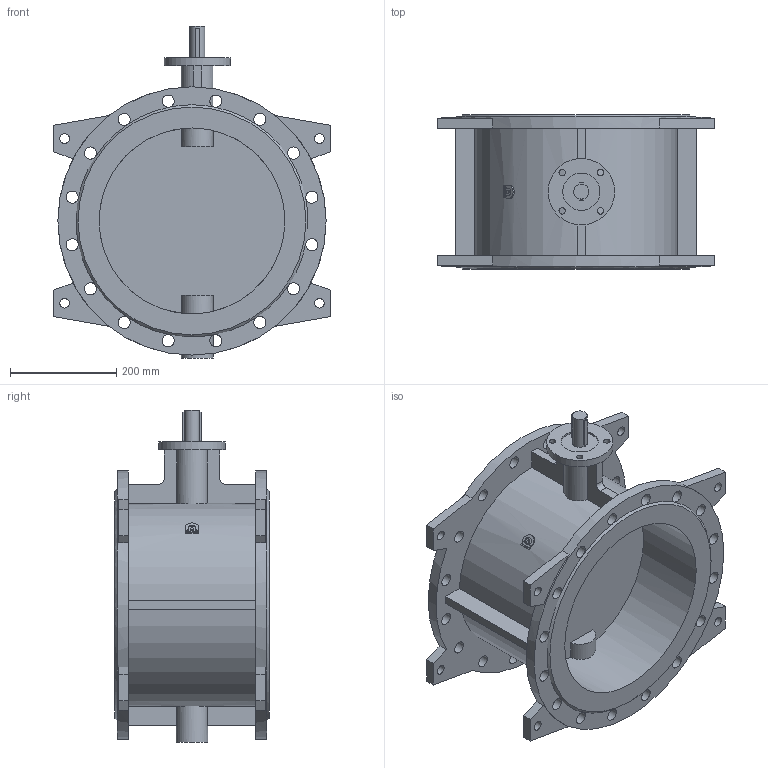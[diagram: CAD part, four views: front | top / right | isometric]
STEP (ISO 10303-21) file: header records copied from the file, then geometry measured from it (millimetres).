
FILE_DESCRIPTION(('STEP AP203'), '1');
FILE_NAME('Çàòâîð 023F.Z DN350 PN10 ïîä èñïîëíèòåëüíûé ìåõàíèçì', '', ('UNSPECIFIED'), ('UNSPECIFIED'), 'ASCON STEP Converter 1.6', 'ASCON Math Kernel', '');
FILE_SCHEMA(('CONFIG_CONTROL_DESIGN'));
Length unit declared in the file: millimetre
Bounding box: 520 x 290 x 625 mm (x, y, z)
Volume: 14141452.6 mm3; surface area: 1443230.1 mm2
Topology: 1 solids, 1 shells, 158 faces, 493 edges, 318 vertices
Faces by surface type: plane 85, cylinder 71, cone 2
Full cylindrical faces by diameter (mm): 12 x4, 18 x8, 23 x32, 28 x1, 60 x1, 70 x1, 125 x1, 350 x2, 505 x2
Entity records: 7936 total; most frequent: CARTESIAN_POINT 2140, DIRECTION 942, ORIENTED_EDGE 860, EDGE_CURVE 430, AXIS2_PLACEMENT_3D 372, EDGE_LOOP 314, VERTEX_POINT 314, FACE_BOUND 240
